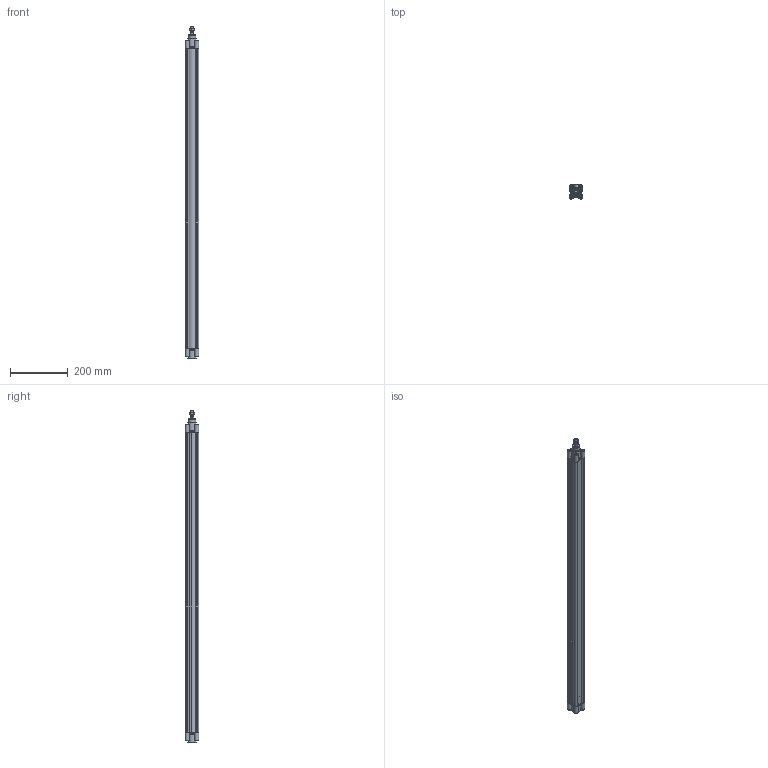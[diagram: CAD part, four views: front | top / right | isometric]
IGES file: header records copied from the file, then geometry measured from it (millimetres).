
Global section: file name: No Iges File Name specified; native system: Autodesk Inventor 2012; preprocessor: AutoDesk Inventor Iges Exporter R2012; author: pilonfr1; date: 20120128.095113; units: millimetre
Bounding box: 47 x 47 x 1146.5 mm (x, y, z)
Volume: 823573.9 mm3; surface area: 565365.6 mm2
Topology: 5 solids, 5 shells, 316 faces, 788 edges, 522 vertices
Faces by surface type: plane 200, cylinder 54, revolution 39, cone 22, torus 1
Full cylindrical faces by diameter (mm): 8.8 x1, 10 x9, 11.5 x1, 12 x1, 26 x1, 30 x2, 32 x3
